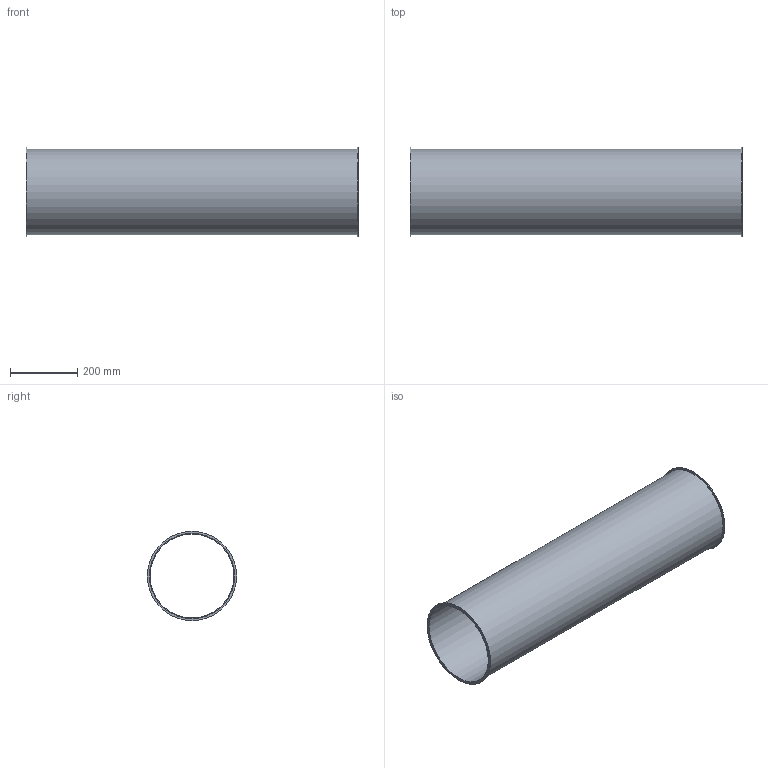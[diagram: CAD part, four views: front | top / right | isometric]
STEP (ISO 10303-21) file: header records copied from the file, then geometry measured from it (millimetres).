
FILE_DESCRIPTION((''),'2;1');
FILE_NAME('U:\Wolfgang\Marcel-3D\fertig\Kapitel 1\2521002.stp','2010-05-31T11:34:30',('TK2'),(''),'Autodesk Inventor 2010','Autodesk Inventor 2010','');
FILE_SCHEMA(('AUTOMOTIVE_DESIGN { 1 0 10303 214 1 1 1 1 }'));
Length unit declared in the file: millimetre
Products named in the file (1): 2521002
Bounding box: 986 x 265 x 265 mm (x, y, z)
Volume: 1574528.5 mm3; surface area: 1577833.5 mm2
Topology: 1 solids, 1 shells, 8 faces, 12 edges, 8 vertices
Faces by surface type: cylinder 4, plane 4
Full cylindrical faces by diameter (mm): 249 x1, 253 x1, 265 x2
Entity records: 194 total; most frequent: DIRECTION 34, CARTESIAN_POINT 25, AXIS2_PLACEMENT_3D 17, ORIENTED_EDGE 16, EDGE_LOOP 16, VERTEX_POINT 8, CIRCLE 8, EDGE_CURVE 8
